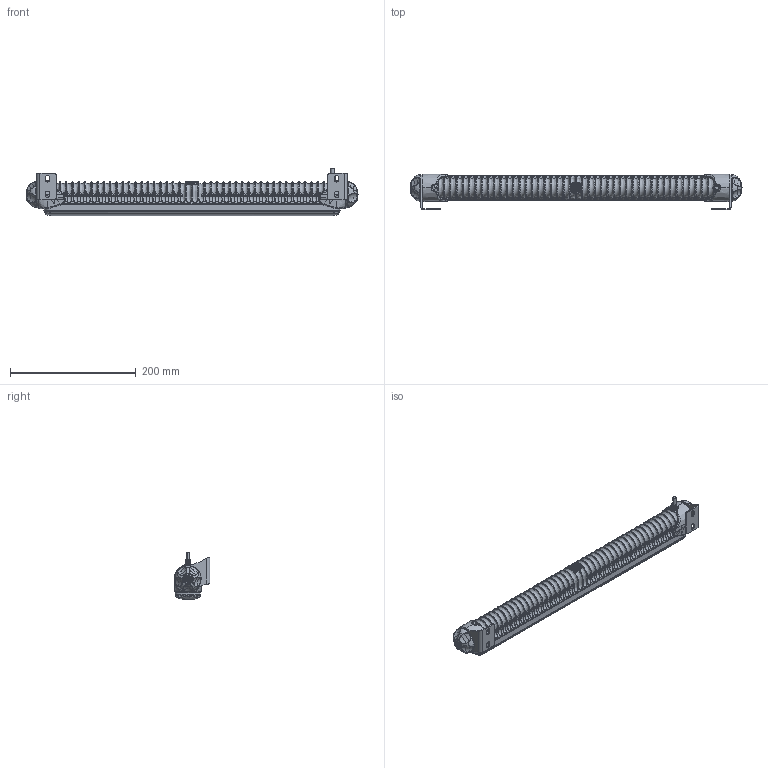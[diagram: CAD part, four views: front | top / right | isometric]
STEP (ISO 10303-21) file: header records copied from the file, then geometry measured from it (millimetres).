
FILE_DESCRIPTION(('CATIA V5 STEP Exchange','CAx-IF Rec.Pracs.--- Model Styling and Organization---1.5--- 2016-08-15','CAx-IF Rec.Pracs.---Supplemental Geometry---1.0---2011-11-01','CAx-IF Rec.Pracs.--- Composite Materials ---1.1---2010-07-15'),'2;1');
FILE_NAME('E:\tmp\ddx\2010591\3D_data_LED_aux_high_beam_headlamp_LED_LightBar470_PO_1FJ 958 140-00.stp','2022-01-14T14:36:24+00:00',('none'),('none'),'CATIA Version 5-6 Release 2020 SP3 HF9','CATIA V5 STEP AP214 Edition 3 v2','none');
FILE_SCHEMA(('AUTOMOTIVE_DESIGN { 1 0 10303 214 3 1 1 1 }'));
Products named in the file (1): 10002785520_D10_001
Bounding box: 528.19 x 57 x 75.3 mm (x, y, z)
Volume: 862433.3 mm3; surface area: 140249.3 mm2
Topology: 16 solids, 16 shells, 6457 faces, 15963 edges, 9299 vertices
Faces by surface type: bspline 5035, plane 475, cylinder 322, torus 294, sphere 176, cone 155
Entity records: 553881 total; most frequent: CARTESIAN_POINT 459802, ORIENTED_EDGE 31382, EDGE_CURVE 15691, B_SPLINE_CURVE_WITH_KNOTS 12434, VERTEX_POINT 9299, EDGE_LOOP 6522, ADVANCED_FACE 6457, FACE_OUTER_BOUND 6457
